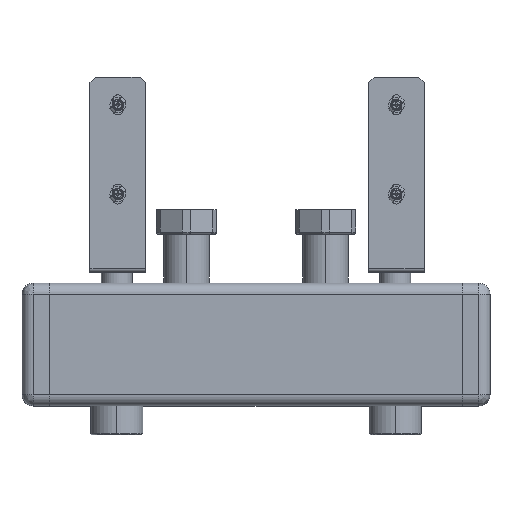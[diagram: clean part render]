
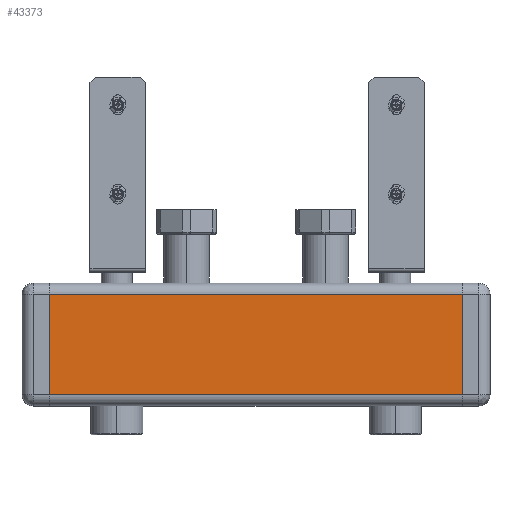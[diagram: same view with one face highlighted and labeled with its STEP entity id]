
A CAD part, top view. The second image highlights one B-rep face of the part: STEP entity #43373.
In plain terms, the highlighted planar face has unit normal (0, 0, 1) as drawn and (1, 0, 0) by its records, which use the part's own axes.
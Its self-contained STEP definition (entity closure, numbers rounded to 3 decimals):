
#4574 = LINE ( 'NONE', #43760, #52575 ) ;
#4714 = CARTESIAN_POINT ( 'NONE',  ( 55., 45., 185. ) ) ;
#5859 = CARTESIAN_POINT ( 'NONE',  ( 55., 0., 185. ) ) ;
#5885 = ORIENTED_EDGE ( 'NONE', *, *, #29786, .T. ) ;
#6303 = DIRECTION ( 'NONE',  ( 1., 0., 0. ) ) ;
#7080 = ORIENTED_EDGE ( 'NONE', *, *, #55314, .T. ) ;
#7750 = DIRECTION ( 'NONE',  ( 0., 1., 0. ) ) ;
#9914 = DIRECTION ( 'NONE',  ( 0., 0., -1. ) ) ;
#10901 = ORIENTED_EDGE ( 'NONE', *, *, #52374, .T. ) ;
#12978 = CARTESIAN_POINT ( 'NONE',  ( 55., -45., -185. ) ) ;
#13769 = VECTOR ( 'NONE', #7750, 1000. ) ;
#15094 = DIRECTION ( 'NONE',  ( 0., 0., -1. ) ) ;
#19314 = VERTEX_POINT ( 'NONE', #4714 ) ;
#19754 = VERTEX_POINT ( 'NONE', #12978 ) ;
#19803 = CARTESIAN_POINT ( 'NONE',  ( 55., 0., 0. ) ) ;
#22330 = LINE ( 'NONE', #27348, #42481 ) ;
#22685 = ORIENTED_EDGE ( 'NONE', *, *, #28228, .T. ) ;
#22728 = VERTEX_POINT ( 'NONE', #32863 ) ;
#22760 = VECTOR ( 'NONE', #24359, 1000. ) ;
#23141 = CARTESIAN_POINT ( 'NONE',  ( 55., 45., -185. ) ) ;
#24359 = DIRECTION ( 'NONE',  ( 0., -1., 0. ) ) ;
#27348 = CARTESIAN_POINT ( 'NONE',  ( 55., 45., 0. ) ) ;
#28228 = EDGE_CURVE ( 'NONE', #22728, #19754, #4574, .T. ) ;
#28949 = LINE ( 'NONE', #48052, #13769 ) ;
#29786 = EDGE_CURVE ( 'NONE', #19754, #46686, #28949, .T. ) ;
#32863 = CARTESIAN_POINT ( 'NONE',  ( 55., -45., 185. ) ) ;
#41445 = DIRECTION ( 'NONE',  ( 0., 0., 1. ) ) ;
#42481 = VECTOR ( 'NONE', #41445, 1000. ) ;
#43373 = ADVANCED_FACE ( 'NONE', ( #43927 ), #58615, .T. ) ;
#43760 = CARTESIAN_POINT ( 'NONE',  ( 55., -45., 0. ) ) ;
#43801 = LINE ( 'NONE', #5859, #22760 ) ;
#43927 = FACE_OUTER_BOUND ( 'NONE', #48894, .T. ) ;
#46686 = VERTEX_POINT ( 'NONE', #23141 ) ;
#48052 = CARTESIAN_POINT ( 'NONE',  ( 55., 0., -185. ) ) ;
#48894 = EDGE_LOOP ( 'NONE', ( #5885, #10901, #7080, #22685 ) ) ;
#52374 = EDGE_CURVE ( 'NONE', #46686, #19314, #22330, .T. ) ;
#52575 = VECTOR ( 'NONE', #9914, 1000. ) ;
#55314 = EDGE_CURVE ( 'NONE', #19314, #22728, #43801, .T. ) ;
#58615 = PLANE ( 'NONE',  #61906 ) ;
#61906 = AXIS2_PLACEMENT_3D ( 'NONE', #19803, #6303, #15094 ) ;
